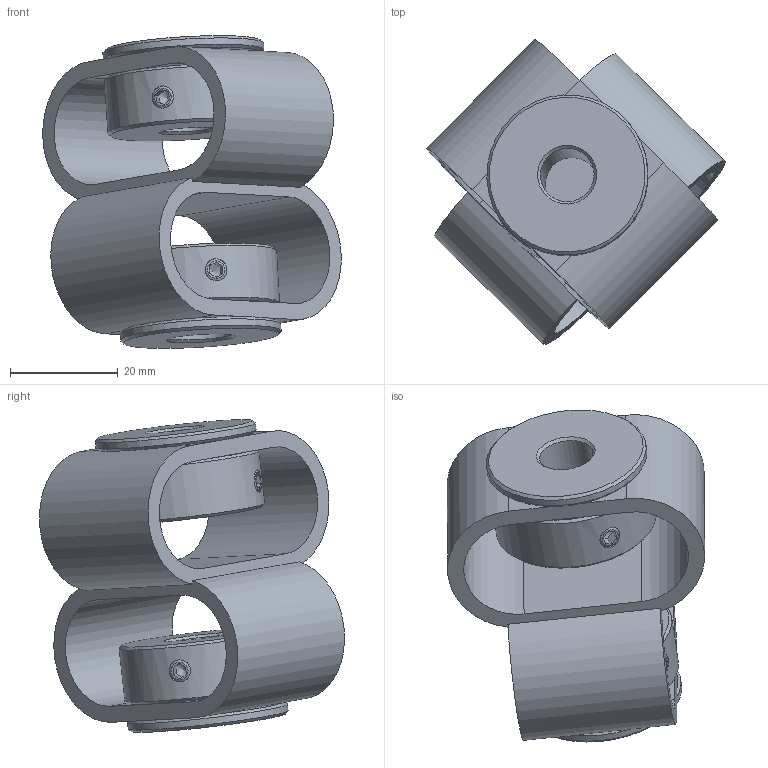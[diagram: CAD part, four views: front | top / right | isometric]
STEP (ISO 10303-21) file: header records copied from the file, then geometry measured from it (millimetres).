
FILE_DESCRIPTION(/* description */ (''),/* implementation_level */ '2;1');
FILE_NAME(/* name */ 'E:\ABP_bauteile\Doppelschlaufenkupplung\DKPS_5658\Doppelschlaufenkupplung_DKPS_5658_10_12.stp',/* time_stamp */ '2015-03-13T11:17:22+01:00',/* author */ ('Rob'),/* organization */ (''),/* preprocessor_version */ 'ST-DEVELOPER v15.6',/* originating_system */ 'Autodesk Inventor 2015',/* authorisation */ '');
FILE_SCHEMA (('CONFIG_CONTROL_DESIGN'));
Length unit declared in the file: millimetre
Products named in the file (1): Bauteil27
Bounding box: 55.53 x 56.74 x 58.16 mm (x, y, z)
Volume: 33424.8 mm3; surface area: 18160.2 mm2
Topology: 1 solids, 1 shells, 146 faces, 366 edges, 220 vertices
Faces by surface type: plane 84, cone 34, cylinder 28
Full cylindrical faces by diameter (mm): 4.134 x8, 10 x1, 12 x1, 21.5 x2, 23 x4, 30 x4
Entity records: 4186 total; most frequent: CARTESIAN_POINT 1059, DIRECTION 662, ORIENTED_EDGE 568, EDGE_CURVE 284, AXIS2_PLACEMENT_3D 265, EDGE_LOOP 214, VERTEX_POINT 184, FACE_OUTER_BOUND 146
